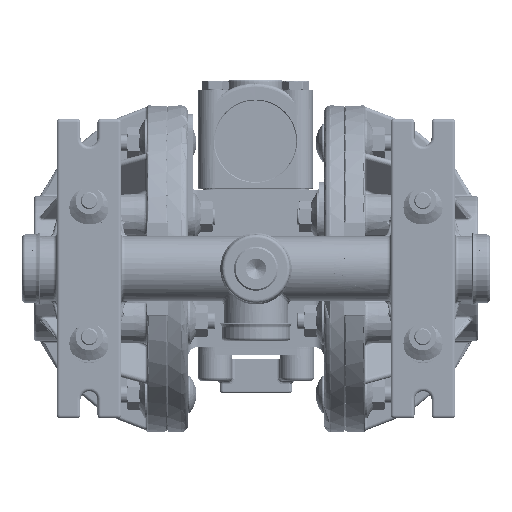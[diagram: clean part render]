
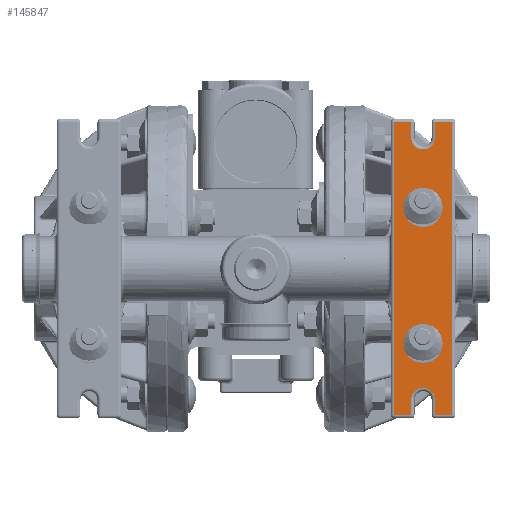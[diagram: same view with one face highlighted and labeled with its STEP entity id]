
A CAD part, front view. The second image highlights one B-rep face of the part: STEP entity #145847.
In plain terms, the highlighted planar face has unit normal (0, -1, 0).
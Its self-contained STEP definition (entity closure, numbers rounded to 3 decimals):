
#32824=CARTESIAN_POINT('',(77.915,-153.365,
61.112));
#32825=DIRECTION('',(0.,-1.,0.));
#32826=DIRECTION('',(-1.,0.,0.));
#32827=AXIS2_PLACEMENT_3D('',#32824,#32825,#32826);
#32829=CARTESIAN_POINT('',(77.915,-153.365,
61.112));
#32830=DIRECTION('',(0.,-1.,0.));
#32831=DIRECTION('',(-1.,0.,
-0.01));
#32832=AXIS2_PLACEMENT_3D('',#32829,#32830,#32831);
#32834=CARTESIAN_POINT('',(77.915,-153.365,
-61.112));
#32835=DIRECTION('',(0.,-1.,0.));
#32836=DIRECTION('',(1.,0.,0.));
#32837=AXIS2_PLACEMENT_3D('',#32834,#32835,#32836);
#32839=CARTESIAN_POINT('',(77.915,-153.365,
-61.112));
#32840=DIRECTION('',(0.,-1.,0.));
#32841=DIRECTION('',(1.,0.,0.01));
#32842=AXIS2_PLACEMENT_3D('',#32839,#32840,#32841);
#32844=CARTESIAN_POINT('',(77.915,-153.365,
-34.925));
#32845=DIRECTION('',(0.,-1.,0.));
#32846=DIRECTION('',(-1.,0.,0.));
#32847=AXIS2_PLACEMENT_3D('',#32844,#32845,#32846);
#32849=CARTESIAN_POINT('',(77.915,-153.365,
-34.925));
#32850=DIRECTION('',(0.,-1.,0.));
#32851=DIRECTION('',(1.,0.,0.));
#32852=AXIS2_PLACEMENT_3D('',#32849,#32850,#32851);
#32854=CARTESIAN_POINT('',(77.915,-153.365,
28.575));
#32855=DIRECTION('',(0.,-1.,0.));
#32856=DIRECTION('',(-1.,0.,0.));
#32857=AXIS2_PLACEMENT_3D('',#32854,#32855,#32856);
#32859=CARTESIAN_POINT('',(77.915,-153.365,
28.575));
#32860=DIRECTION('',(0.,-1.,0.));
#32861=DIRECTION('',(1.,0.,0.));
#32862=AXIS2_PLACEMENT_3D('',#32859,#32860,#32861);
#32864=DIRECTION('',(0.,0.,-1.));
#32865=VECTOR('',#32864,136.601);
#32866=CARTESIAN_POINT('',(64.389,-153.365,
68.301));
#32867=LINE('',#32866,#32865);
#32895=DIRECTION('',(1.,0.,0.));
#32896=VECTOR('',#32895,8.014);
#32897=CARTESIAN_POINT('',(64.389,-153.365,
-68.301));
#32898=LINE('',#32897,#32896);
#32926=DIRECTION('',(0.,0.,1.));
#32927=VECTOR('',#32926,7.188);
#32928=CARTESIAN_POINT('',(72.403,-153.365,
-68.301));
#32929=LINE('',#32928,#32927);
#32954=DIRECTION('',(0.,0.,-1.));
#32955=VECTOR('',#32954,7.188);
#32956=CARTESIAN_POINT('',(83.426,-153.365,
-61.112));
#32957=LINE('',#32956,#32955);
#32985=DIRECTION('',(1.,0.,0.));
#32986=VECTOR('',#32985,8.014);
#32987=CARTESIAN_POINT('',(83.426,-153.365,
-68.301));
#32988=LINE('',#32987,#32986);
#34699=DIRECTION('',(0.,0.,1.));
#34700=VECTOR('',#34699,136.601);
#34701=CARTESIAN_POINT('',(91.44,-153.365,
-68.301));
#34702=LINE('',#34701,#34700);
#34730=DIRECTION('',(-1.,0.,0.));
#34731=VECTOR('',#34730,8.014);
#34732=CARTESIAN_POINT('',(91.44,-153.365,
68.301));
#34733=LINE('',#34732,#34731);
#34761=DIRECTION('',(0.,0.,-1.));
#34762=VECTOR('',#34761,7.188);
#34763=CARTESIAN_POINT('',(83.426,-153.365,
68.301));
#34764=LINE('',#34763,#34762);
#34789=DIRECTION('',(0.,0.,1.));
#34790=VECTOR('',#34789,7.188);
#34791=CARTESIAN_POINT('',(72.403,-153.365,
61.112));
#34792=LINE('',#34791,#34790);
#34820=DIRECTION('',(-1.,0.,0.));
#34821=VECTOR('',#34820,8.014);
#34822=CARTESIAN_POINT('',(72.403,-153.365,
68.301));
#34823=LINE('',#34822,#34821);
#90538=CARTESIAN_POINT('',(87.059,-153.365,
-34.925));
#90540=VERTEX_POINT('',#90538);
#90544=CARTESIAN_POINT('',(68.771,-153.365,
-34.925));
#90545=VERTEX_POINT('',#90544);
#90546=CARTESIAN_POINT('',(64.389,-153.365,
68.301));
#90547=CARTESIAN_POINT('',(64.389,-153.365,
-68.301));
#90548=VERTEX_POINT('',#90546);
#90549=VERTEX_POINT('',#90547);
#90550=CARTESIAN_POINT('',(72.403,-153.365,
68.301));
#90551=VERTEX_POINT('',#90550);
#90552=CARTESIAN_POINT('',(72.403,-153.365,
61.112));
#90553=VERTEX_POINT('',#90552);
#90554=CARTESIAN_POINT('',(72.403,-153.365,
61.056));
#90555=CARTESIAN_POINT('',(83.426,-153.365,
61.112));
#90556=VERTEX_POINT('',#90554);
#90557=VERTEX_POINT('',#90555);
#90558=CARTESIAN_POINT('',(83.426,-153.365,
68.301));
#90559=VERTEX_POINT('',#90558);
#90560=CARTESIAN_POINT('',(91.44,-153.365,
68.301));
#90561=VERTEX_POINT('',#90560);
#90562=CARTESIAN_POINT('',(91.44,-153.365,
-68.301));
#90563=VERTEX_POINT('',#90562);
#90564=CARTESIAN_POINT('',(83.426,-153.365,
-68.301));
#90565=VERTEX_POINT('',#90564);
#90566=CARTESIAN_POINT('',(83.426,-153.365,
-61.112));
#90567=VERTEX_POINT('',#90566);
#90568=CARTESIAN_POINT('',(83.426,-153.365,
-61.056));
#90569=CARTESIAN_POINT('',(72.403,-153.365,
-61.112));
#90570=VERTEX_POINT('',#90568);
#90571=VERTEX_POINT('',#90569);
#90572=CARTESIAN_POINT('',(72.403,-153.365,
-68.301));
#90573=VERTEX_POINT('',#90572);
#90574=CARTESIAN_POINT('',(68.771,-153.365,
28.575));
#90575=CARTESIAN_POINT('',(87.059,-153.365,
28.575));
#90576=VERTEX_POINT('',#90574);
#90577=VERTEX_POINT('',#90575);
#145802=CARTESIAN_POINT('',(62.84,-153.365,
69.85));
#145803=DIRECTION('',(0.,-1.,0.));
#145804=DIRECTION('',(0.,0.,-1.));
#145805=AXIS2_PLACEMENT_3D('',#145802,#145803,#145804);
#145806=PLANE('',#145805);
#145808=ORIENTED_EDGE('',*,*,#145807,.F.);
#145810=ORIENTED_EDGE('',*,*,#145809,.F.);
#145812=ORIENTED_EDGE('',*,*,#145811,.F.);
#145814=ORIENTED_EDGE('',*,*,#145813,.T.);
#145816=ORIENTED_EDGE('',*,*,#145815,.T.);
#145818=ORIENTED_EDGE('',*,*,#145817,.F.);
#145820=ORIENTED_EDGE('',*,*,#145819,.F.);
#145822=ORIENTED_EDGE('',*,*,#145821,.F.);
#145824=ORIENTED_EDGE('',*,*,#145823,.F.);
#145826=ORIENTED_EDGE('',*,*,#145825,.F.);
#145828=ORIENTED_EDGE('',*,*,#145827,.T.);
#145830=ORIENTED_EDGE('',*,*,#145829,.T.);
#145832=ORIENTED_EDGE('',*,*,#145831,.F.);
#145834=ORIENTED_EDGE('',*,*,#145833,.F.);
#145835=EDGE_LOOP('',(#145808,#145810,#145812,#145814,#145816,#145818,#145820,
#145822,#145824,#145826,#145828,#145830,#145832,#145834));
#145836=FACE_OUTER_BOUND('',#145835,.F.);
#145838=ORIENTED_EDGE('',*,*,#145837,.T.);
#145840=ORIENTED_EDGE('',*,*,#145839,.T.);
#145841=EDGE_LOOP('',(#145838,#145840));
#145842=FACE_BOUND('',#145841,.F.);
#145843=ORIENTED_EDGE('',*,*,#145784,.T.);
#145844=ORIENTED_EDGE('',*,*,#144074,.T.);
#145845=EDGE_LOOP('',(#145843,#145844));
#145846=FACE_BOUND('',#145845,.F.);
#145847=ADVANCED_FACE('',(#145836,#145842,#145846),#145806,.T.);
#32828=CIRCLE('',#32827,5.512);
#32833=CIRCLE('',#32832,5.512);
#32838=CIRCLE('',#32837,5.512);
#32843=CIRCLE('',#32842,5.512);
#32848=CIRCLE('',#32847,9.144);
#32853=CIRCLE('',#32852,9.144);
#32858=CIRCLE('',#32857,9.144);
#32863=CIRCLE('',#32862,9.144);
#144074=EDGE_CURVE('',#90577,#90576,#32863,.T.);
#145784=EDGE_CURVE('',#90576,#90577,#32858,.T.);
#145807=EDGE_CURVE('',#90548,#90549,#32867,.T.);
#145809=EDGE_CURVE('',#90551,#90548,#34823,.T.);
#145811=EDGE_CURVE('',#90553,#90551,#34792,.T.);
#145813=EDGE_CURVE('',#90553,#90556,#32828,.T.);
#145815=EDGE_CURVE('',#90556,#90557,#32833,.T.);
#145817=EDGE_CURVE('',#90559,#90557,#34764,.T.);
#145819=EDGE_CURVE('',#90561,#90559,#34733,.T.);
#145821=EDGE_CURVE('',#90563,#90561,#34702,.T.);
#145823=EDGE_CURVE('',#90565,#90563,#32988,.T.);
#145825=EDGE_CURVE('',#90567,#90565,#32957,.T.);
#145827=EDGE_CURVE('',#90567,#90570,#32838,.T.);
#145829=EDGE_CURVE('',#90570,#90571,#32843,.T.);
#145831=EDGE_CURVE('',#90573,#90571,#32929,.T.);
#145833=EDGE_CURVE('',#90549,#90573,#32898,.T.);
#145837=EDGE_CURVE('',#90545,#90540,#32848,.T.);
#145839=EDGE_CURVE('',#90540,#90545,#32853,.T.);
